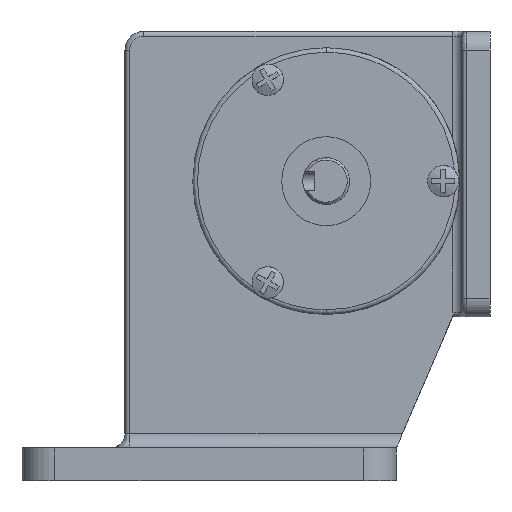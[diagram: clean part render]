
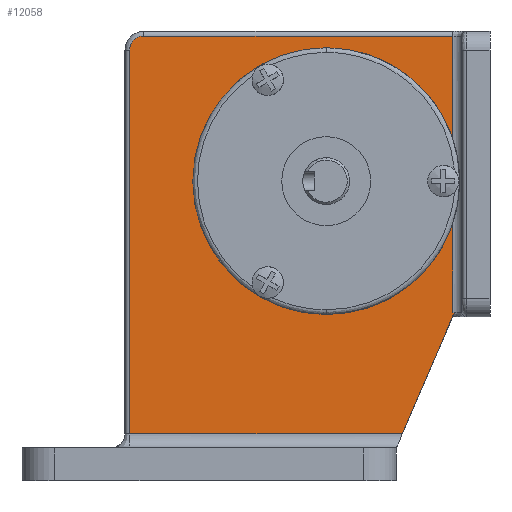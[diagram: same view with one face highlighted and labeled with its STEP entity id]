
A CAD part, left-side view. The second image highlights one B-rep face of the part: STEP entity #12058.
In plain terms, the highlighted planar face has unit normal (-1, 0, 0).
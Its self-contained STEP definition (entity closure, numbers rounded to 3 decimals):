
#93 = CARTESIAN_POINT ( 'NONE',  ( -18., 77., 29.757 ) ) ;
#120 = ORIENTED_EDGE ( 'NONE', *, *, #3971, .F. ) ;
#276 = VERTEX_POINT ( 'NONE', #1637 ) ;
#313 =( BOUNDED_CURVE ( )  B_SPLINE_CURVE ( 3, ( #12497, #93, #7740, #8829 ),
 .UNSPECIFIED., .F., .F. ) 
 B_SPLINE_CURVE_WITH_KNOTS ( ( 4, 4 ),
 ( 0., 1. ),
 .UNSPECIFIED. ) 
 CURVE ( )  GEOMETRIC_REPRESENTATION_ITEM ( )  RATIONAL_B_SPLINE_CURVE ( ( 0.957, 0.77, 0.77, 0.957 ) ) 
 REPRESENTATION_ITEM ( '' )  );
#334 = EDGE_CURVE ( 'NONE', #276, #9566, #529, .T. ) ;
#374 = DIRECTION ( 'NONE',  ( 0., -1., 0. ) ) ;
#529 = CIRCLE ( 'NONE', #5005, 28.5 ) ;
#645 = CARTESIAN_POINT ( 'NONE',  ( -18., 8., -9.124 ) ) ;
#707 = CARTESIAN_POINT ( 'NONE',  ( -18., 77., -11.5 ) ) ;
#748 = CARTESIAN_POINT ( 'NONE',  ( -18., 42.127, -54. ) ) ;
#774 = CARTESIAN_POINT ( 'NONE',  ( -18., 8., 1.5 ) ) ;
#779 = ORIENTED_EDGE ( 'NONE', *, *, #334, .T. ) ;
#822 = VECTOR ( 'NONE', #3995, 1000. ) ;
#987 = DIRECTION ( 'NONE',  ( 1., 0., 0. ) ) ;
#1086 = PLANE ( 'NONE',  #12269 ) ;
#1268 = CARTESIAN_POINT ( 'NONE',  ( -18., 18.714, -54. ) ) ;
#1637 = CARTESIAN_POINT ( 'NONE',  ( -18., 35., -28.5 ) ) ;
#1967 = LINE ( 'NONE', #3354, #3792 ) ;
#1980 = CARTESIAN_POINT ( 'NONE',  ( -18., 35., 0. ) ) ;
#1986 = DIRECTION ( 'NONE',  ( 1., 0., 0. ) ) ;
#2007 = EDGE_CURVE ( 'NONE', #8655, #4974, #3515, .T. ) ;
#2407 = VERTEX_POINT ( 'NONE', #6108 ) ;
#2572 = VERTEX_POINT ( 'NONE', #645 ) ;
#2811 = EDGE_CURVE ( 'NONE', #2407, #9061, #313, .T. ) ;
#2981 = CARTESIAN_POINT ( 'NONE',  ( -18., 7.254, 31. ) ) ;
#3102 = CARTESIAN_POINT ( 'NONE',  ( -18., 7.67, -28.231 ) ) ;
#3190 = CARTESIAN_POINT ( 'NONE',  ( -18., 8., 1.5 ) ) ;
#3306 = CARTESIAN_POINT ( 'NONE',  ( -18., 35., 0. ) ) ;
#3354 = CARTESIAN_POINT ( 'NONE',  ( -18., 42.127, 31. ) ) ;
#3510 = CARTESIAN_POINT ( 'NONE',  ( -18., 8., 9.124 ) ) ;
#3515 = LINE ( 'NONE', #748, #11035 ) ;
#3530 = AXIS2_PLACEMENT_3D ( 'NONE', #3306, #11007, #5232 ) ;
#3557 = CARTESIAN_POINT ( 'NONE',  ( -18., 7.67, -28.231 ) ) ;
#3792 = VECTOR ( 'NONE', #374, 1000. ) ;
#3935 = CARTESIAN_POINT ( 'NONE',  ( -18., 74., 31. ) ) ;
#3971 = EDGE_CURVE ( 'NONE', #9529, #8655, #7457, .T. ) ;
#3995 = DIRECTION ( 'NONE',  ( 0., 0.394, -0.919 ) ) ;
#4152 = EDGE_CURVE ( 'NONE', #4974, #2407, #6079, .T. ) ;
#4525 = LINE ( 'NONE', #3190, #4837 ) ;
#4625 = EDGE_CURVE ( 'NONE', #9566, #7712, #8961, .T. ) ;
#4691 = EDGE_CURVE ( 'NONE', #12276, #7712, #10007, .T. ) ;
#4837 = VECTOR ( 'NONE', #9810, 1000. ) ;
#4974 = VERTEX_POINT ( 'NONE', #9344 ) ;
#5005 = AXIS2_PLACEMENT_3D ( 'NONE', #12211, #1986, #7071 ) ;
#5075 = CARTESIAN_POINT ( 'NONE',  ( -18., 7.894, -28.074 ) ) ;
#5201 = ORIENTED_EDGE ( 'NONE', *, *, #4625, .T. ) ;
#5232 = DIRECTION ( 'NONE',  ( 0., 0., -1. ) ) ;
#5396 = ORIENTED_EDGE ( 'NONE', *, *, #5948, .F. ) ;
#5719 = EDGE_CURVE ( 'NONE', #2572, #10411, #4525, .T. ) ;
#5948 = EDGE_CURVE ( 'NONE', #9061, #12276, #1967, .T. ) ;
#6079 = LINE ( 'NONE', #707, #9401 ) ;
#6108 = CARTESIAN_POINT ( 'NONE',  ( -18., 77., 28. ) ) ;
#6221 = CARTESIAN_POINT ( 'NONE',  ( -18., 8., -28. ) ) ;
#6276 = EDGE_CURVE ( 'NONE', #2572, #276, #9826, .T. ) ;
#6552 = DIRECTION ( 'NONE',  ( 0., 1., 0. ) ) ;
#6810 = ORIENTED_EDGE ( 'NONE', *, *, #4152, .F. ) ;
#6872 = DIRECTION ( 'NONE',  ( 1., 0., 0. ) ) ;
#6945 = CARTESIAN_POINT ( 'NONE',  ( -18., 8., -28. ) ) ;
#7071 = DIRECTION ( 'NONE',  ( 0., 0., -1. ) ) ;
#7115 = EDGE_LOOP ( 'NONE', ( #9883, #120, #10962, #11584, #12438, #779, #5201, #11771, #5396, #9045, #6810 ) ) ;
#7457 = LINE ( 'NONE', #10904, #822 ) ;
#7611 = EDGE_CURVE ( 'NONE', #10411, #9529, #11546, .T. ) ;
#7712 = VERTEX_POINT ( 'NONE', #3510 ) ;
#7740 = CARTESIAN_POINT ( 'NONE',  ( -18., 75.757, 31. ) ) ;
#8075 = AXIS2_PLACEMENT_3D ( 'NONE', #1980, #987, #8753 ) ;
#8655 = VERTEX_POINT ( 'NONE', #1268 ) ;
#8753 = DIRECTION ( 'NONE',  ( 0., 0., -1. ) ) ;
#8829 = CARTESIAN_POINT ( 'NONE',  ( -18., 74., 31. ) ) ;
#8961 = CIRCLE ( 'NONE', #3530, 28.5 ) ;
#8990 = FACE_OUTER_BOUND ( 'NONE', #7115, .T. ) ;
#9045 = ORIENTED_EDGE ( 'NONE', *, *, #2811, .F. ) ;
#9061 = VERTEX_POINT ( 'NONE', #3935 ) ;
#9344 = CARTESIAN_POINT ( 'NONE',  ( -18., 77., -54. ) ) ;
#9401 = VECTOR ( 'NONE', #12137, 1000. ) ;
#9529 = VERTEX_POINT ( 'NONE', #3557 ) ;
#9566 = VERTEX_POINT ( 'NONE', #10465 ) ;
#9722 = DIRECTION ( 'NONE',  ( 0., 0., -1. ) ) ;
#9810 = DIRECTION ( 'NONE',  ( 0., 0., -1. ) ) ;
#9826 = CIRCLE ( 'NONE', #8075, 28.5 ) ;
#9882 = CARTESIAN_POINT ( 'NONE',  ( -18., 7.785, -28.152 ) ) ;
#9883 = ORIENTED_EDGE ( 'NONE', *, *, #2007, .F. ) ;
#10007 = LINE ( 'NONE', #774, #11934 ) ;
#10304 = DIRECTION ( 'NONE',  ( 0., 0., -1. ) ) ;
#10411 = VERTEX_POINT ( 'NONE', #6221 ) ;
#10465 = CARTESIAN_POINT ( 'NONE',  ( -18., 35., 28.5 ) ) ;
#10782 = CARTESIAN_POINT ( 'NONE',  ( -18., 8., 31. ) ) ;
#10904 = CARTESIAN_POINT ( 'NONE',  ( -18., 20., -57. ) ) ;
#10962 = ORIENTED_EDGE ( 'NONE', *, *, #7611, .F. ) ;
#11007 = DIRECTION ( 'NONE',  ( 1., 0., 0. ) ) ;
#11035 = VECTOR ( 'NONE', #6552, 1000. ) ;
#11546 = B_SPLINE_CURVE_WITH_KNOTS ( 'NONE', 3,
 ( #6945, #5075, #9882, #3102 ),
 .UNSPECIFIED., .F., .F.,
 ( 4, 4 ),
 ( 0., 1. ),
 .UNSPECIFIED. ) ;
#11584 = ORIENTED_EDGE ( 'NONE', *, *, #5719, .F. ) ;
#11771 = ORIENTED_EDGE ( 'NONE', *, *, #4691, .F. ) ;
#11934 = VECTOR ( 'NONE', #10304, 1000. ) ;
#12058 = ADVANCED_FACE ( 'NONE', ( #8990 ), #1086, .F. ) ;
#12137 = DIRECTION ( 'NONE',  ( 0., 0., 1. ) ) ;
#12211 = CARTESIAN_POINT ( 'NONE',  ( -18., 35., 0. ) ) ;
#12269 = AXIS2_PLACEMENT_3D ( 'NONE', #2981, #6872, #9722 ) ;
#12276 = VERTEX_POINT ( 'NONE', #10782 ) ;
#12438 = ORIENTED_EDGE ( 'NONE', *, *, #6276, .T. ) ;
#12497 = CARTESIAN_POINT ( 'NONE',  ( -18., 77., 28. ) ) ;
